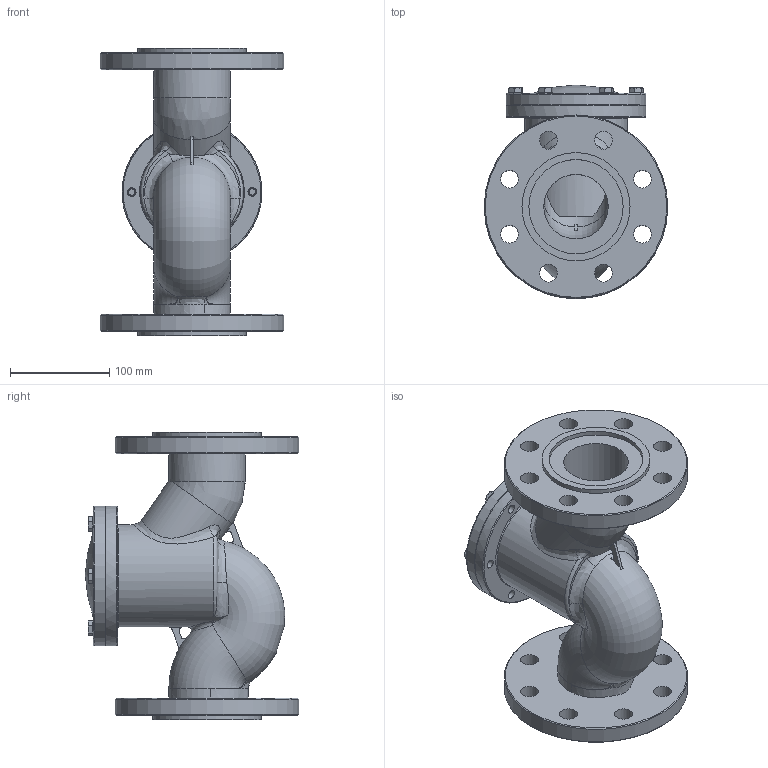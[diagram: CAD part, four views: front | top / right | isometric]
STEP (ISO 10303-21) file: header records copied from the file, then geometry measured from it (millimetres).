
FILE_DESCRIPTION(('STEP AP214'), '1');
FILE_NAME('VCR3434-F 孰囡囗 钺疣蝽 DN.ru 捏65 畜40', '', ('UNSPECIFIED'), ('UNSPECIFIED'), 'C3D Converter', 'C3D Toolkit', '');
FILE_SCHEMA(('AUTOMOTIVE_DESIGN { 1 0 10303 214 3 1 1}'));
Length unit declared in the file: millimetre
Products named in the file (1): VCR3434-F
Bounding box: 185 x 215.33 x 290 mm (x, y, z)
Volume: 2376429.4 mm3; surface area: 346971.8 mm2
Topology: 1 solids, 2 shells, 349 faces, 830 edges, 521 vertices
Faces by surface type: plane 173, cylinder 65, bspline 49, cone 46, torus 11, extrusion 4, sphere 1
Full cylindrical faces by diameter (mm): 8 x6, 8.751 x12, 13 x6, 15 x1, 18 x16, 65 x3, 77 x2, 95 x2, 103.765 x1, 109 x2, 141.081 x2, 185 x2
Entity records: 22283 total; most frequent: CARTESIAN_POINT 13298, ORIENTED_EDGE 1514, DIRECTION 1384, EDGE_CURVE 757, AXIS2_PLACEMENT_3D 566, VERTEX_POINT 522, EDGE_LOOP 505, FACE_BOUND 403
